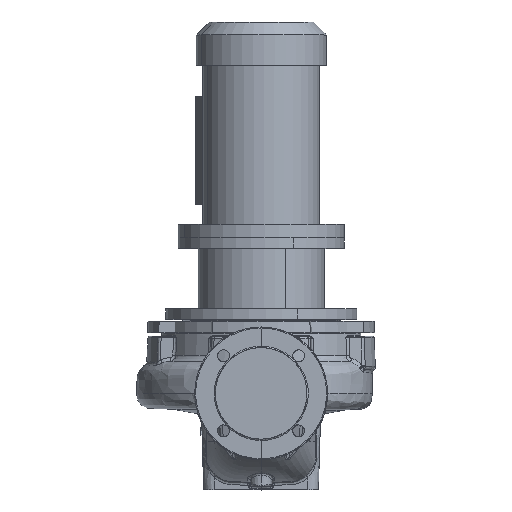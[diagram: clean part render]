
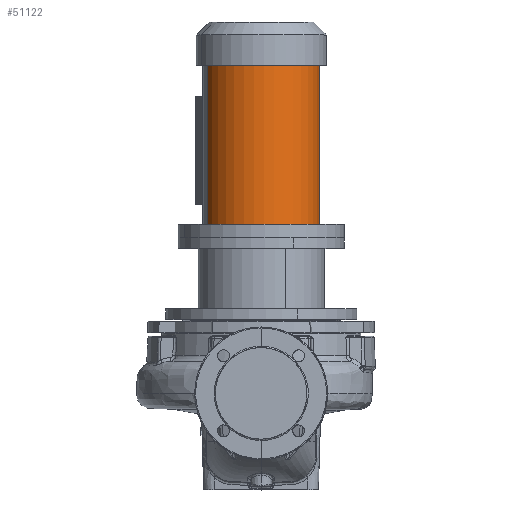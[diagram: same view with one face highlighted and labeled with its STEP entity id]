
A CAD part, top view. The second image highlights one B-rep face of the part: STEP entity #51122.
In plain terms, the highlighted cylindrical face has radius 88 mm (diameter 176 mm), a partial arc.
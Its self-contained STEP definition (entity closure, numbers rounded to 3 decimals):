
#103 = DIRECTION ( 'NONE',  ( 0., -1., 0. ) ) ;
#296 = VECTOR ( 'NONE', #17309, 1000. ) ;
#512 = CARTESIAN_POINT ( 'NONE',  ( 0., 494.8, 0. ) ) ;
#657 = CIRCLE ( 'NONE', #20812, 88. ) ;
#684 = CARTESIAN_POINT ( 'NONE',  ( 0., 234.8, 0. ) ) ;
#1199 = AXIS2_PLACEMENT_3D ( 'NONE', #684, #48952, #43005 ) ;
#1549 = AXIS2_PLACEMENT_3D ( 'NONE', #512, #103, #29418 ) ;
#3666 = CIRCLE ( 'NONE', #1549, 88. ) ;
#3948 = CARTESIAN_POINT ( 'NONE',  ( -81.2, 254.8, 33.92 ) ) ;
#5365 = DIRECTION ( 'NONE',  ( -0.923, 0., 0.385 ) ) ;
#5815 = CYLINDRICAL_SURFACE ( 'NONE', #1199, 88. ) ;
#7239 = VERTEX_POINT ( 'NONE', #3948 ) ;
#8373 = ORIENTED_EDGE ( 'NONE', *, *, #36236, .T. ) ;
#8738 = VERTEX_POINT ( 'NONE', #20684 ) ;
#10459 = VERTEX_POINT ( 'NONE', #30815 ) ;
#15140 = LINE ( 'NONE', #21051, #27292 ) ;
#17309 = DIRECTION ( 'NONE',  ( 0., -1., 0. ) ) ;
#17578 = ORIENTED_EDGE ( 'NONE', *, *, #57485, .F. ) ;
#20684 = CARTESIAN_POINT ( 'NONE',  ( 81.2, 254.8, -33.92 ) ) ;
#20812 = AXIS2_PLACEMENT_3D ( 'NONE', #59366, #54694, #5365 ) ;
#21051 = CARTESIAN_POINT ( 'NONE',  ( -81.2, 234.8, 33.92 ) ) ;
#25558 = FACE_OUTER_BOUND ( 'NONE', #59920, .T. ) ;
#27292 = VECTOR ( 'NONE', #55114, 1000. ) ;
#28694 = EDGE_CURVE ( 'NONE', #10459, #47100, #3666, .T. ) ;
#29418 = DIRECTION ( 'NONE',  ( -0.923, 0., 0.385 ) ) ;
#30815 = CARTESIAN_POINT ( 'NONE',  ( 81.2, 494.8, -33.92 ) ) ;
#31706 = EDGE_CURVE ( 'NONE', #8738, #7239, #657, .T. ) ;
#36236 = EDGE_CURVE ( 'NONE', #47100, #7239, #15140, .T. ) ;
#40670 = CARTESIAN_POINT ( 'NONE',  ( -81.2, 494.8, 33.92 ) ) ;
#43005 = DIRECTION ( 'NONE',  ( -0.923, 0., 0.385 ) ) ;
#46409 = CARTESIAN_POINT ( 'NONE',  ( 81.2, 234.8, -33.92 ) ) ;
#47100 = VERTEX_POINT ( 'NONE', #40670 ) ;
#48952 = DIRECTION ( 'NONE',  ( 0., -1., 0. ) ) ;
#51122 = ADVANCED_FACE ( 'NONE', ( #25558 ), #5815, .T. ) ;
#53582 = LINE ( 'NONE', #46409, #296 ) ;
#54362 = ORIENTED_EDGE ( 'NONE', *, *, #31706, .F. ) ;
#54694 = DIRECTION ( 'NONE',  ( 0., -1., 0. ) ) ;
#55114 = DIRECTION ( 'NONE',  ( 0., -1., 0. ) ) ;
#57485 = EDGE_CURVE ( 'NONE', #10459, #8738, #53582, .T. ) ;
#59366 = CARTESIAN_POINT ( 'NONE',  ( 0., 254.8, 0. ) ) ;
#59920 = EDGE_LOOP ( 'NONE', ( #17578, #62148, #8373, #54362 ) ) ;
#62148 = ORIENTED_EDGE ( 'NONE', *, *, #28694, .T. ) ;
